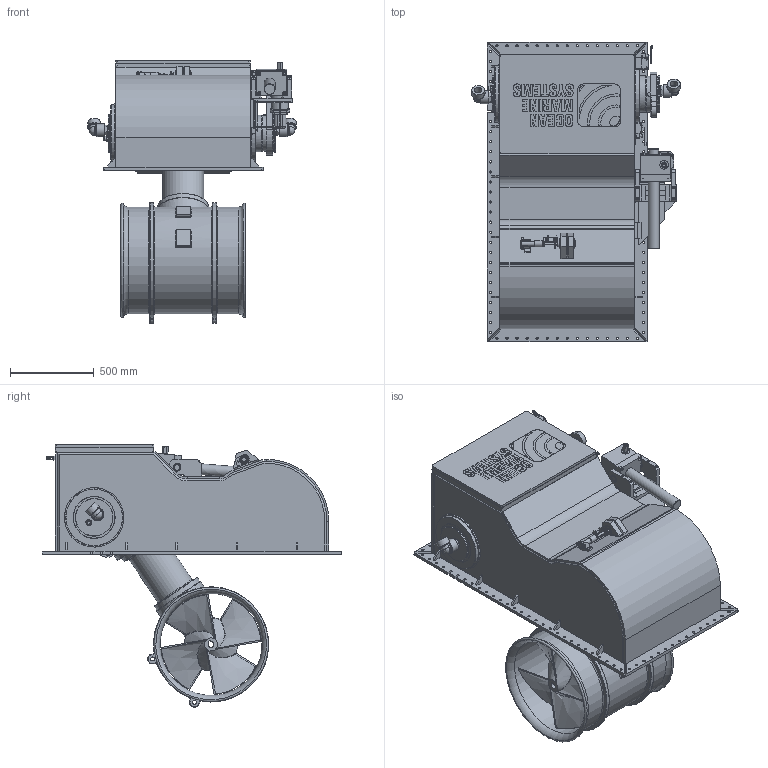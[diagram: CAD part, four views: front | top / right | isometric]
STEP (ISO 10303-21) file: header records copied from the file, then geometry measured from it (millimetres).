
FILE_DESCRIPTION(/* description */ (''),/* implementation_level */ '2;1');
FILE_NAME(/* name */ 'Q:\THRUSTERS\THRUSTER SALES & SUPPORT DOCS\THRUSTER Sales\H-S\H-0600-S\H-0600-S-DEPLOYED.stp',/* time_stamp */ '2021-01-26T14:41:35+00:00',/* author */ ('Barney.Webborn'),/* organization */ (''),/* preprocessor_version */ 'ST-DEVELOPER v17.2',/* originating_system */ 'Autodesk Inventor 2019',/* authorisation */ '');
FILE_SCHEMA (('AUTOMOTIVE_DESIGN { 1 0 10303 214 3 1 1 }'));
Length unit declared in the file: millimetre
Products named in the file (1): H-0600-S_Shrinkwrap_1
Bounding box: 1248 x 1791 x 1571.82 mm (x, y, z)
Volume: 155601409.4 mm3; surface area: 20119058.7 mm2
Topology: 9 solids, 9 shells, 2564 faces, 6827 edges, 4421 vertices
Faces by surface type: plane 1381, cylinder 669, cone 232, bspline 151, torus 105, sphere 26
Full cylindrical faces by diameter (mm): 3 x6, 5 x2, 7.2 x2, 8 x2, 8.5 x4, 10 x2, 12 x1, 12.4 x24, 12.5 x24, 13 x102, 13.5 x4, 15 x3, 15.6 x1, 16 x5, 16.5 x4, 17 x2, 17.5 x2, 18.15 x1, 18.25 x2, 18.376 x2, 19 x22, 19.512 x4, 20 x4, 24 x4, 24.441 x2, 24.5 x5, 25 x2, 26.25 x1, 26.441 x1, 28 x1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
Entity records: 88347 total; most frequent: CARTESIAN_POINT 21094, ORIENTED_EDGE 13510, DIRECTION 13211, EDGE_CURVE 6755, AXIS2_PLACEMENT_3D 4661, VERTEX_POINT 4421, LINE 3889, VECTOR 3889
